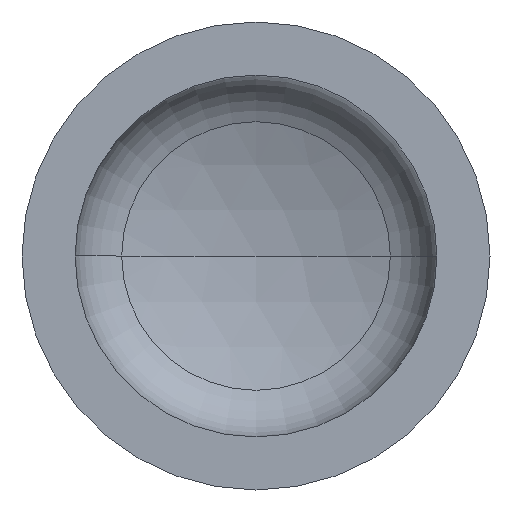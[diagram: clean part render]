
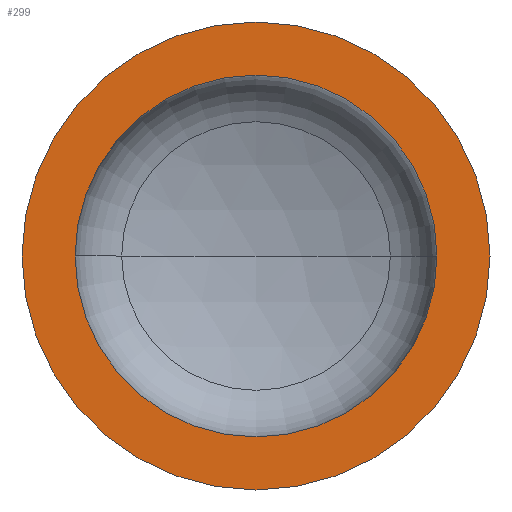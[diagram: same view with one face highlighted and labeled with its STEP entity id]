
A CAD part, front view. The second image highlights one B-rep face of the part: STEP entity #299.
In plain terms, the highlighted planar face has unit normal (0, -1, 0).
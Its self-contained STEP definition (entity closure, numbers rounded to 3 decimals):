
#8 = ORIENTED_EDGE ( 'NONE', *, *, #113, .T. ) ;
#19 = AXIS2_PLACEMENT_3D ( 'NONE', #399, #264, #47 ) ;
#20 = AXIS2_PLACEMENT_3D ( 'NONE', #389, #180, #207 ) ;
#21 = EDGE_LOOP ( 'NONE', ( #57, #8 ) ) ;
#45 = EDGE_LOOP ( 'NONE', ( #128, #114 ) ) ;
#47 = DIRECTION ( 'NONE',  ( 1., 0., 0. ) ) ;
#49 = VERTEX_POINT ( 'NONE', #274 ) ;
#57 = ORIENTED_EDGE ( 'NONE', *, *, #230, .T. ) ;
#61 = AXIS2_PLACEMENT_3D ( 'NONE', #265, #263, #260 ) ;
#89 = AXIS2_PLACEMENT_3D ( 'NONE', #337, #336, #335 ) ;
#91 = AXIS2_PLACEMENT_3D ( 'NONE', #383, #384, #332 ) ;
#106 = VERTEX_POINT ( 'NONE', #347 ) ;
#113 = EDGE_CURVE ( 'NONE', #49, #106, #146, .T. ) ;
#114 = ORIENTED_EDGE ( 'NONE', *, *, #360, .F. ) ;
#118 = EDGE_CURVE ( 'NONE', #132, #123, #394, .T. ) ;
#123 = VERTEX_POINT ( 'NONE', #358 ) ;
#128 = ORIENTED_EDGE ( 'NONE', *, *, #118, .F. ) ;
#132 = VERTEX_POINT ( 'NONE', #322 ) ;
#146 = CIRCLE ( 'NONE', #91, 450. ) ;
#180 = DIRECTION ( 'NONE',  ( 0., 1., 0. ) ) ;
#207 = DIRECTION ( 'NONE',  ( -1., 0., 0. ) ) ;
#230 = EDGE_CURVE ( 'NONE', #106, #49, #328, .T. ) ;
#234 = CIRCLE ( 'NONE', #19, 348. ) ;
#244 = FACE_OUTER_BOUND ( 'NONE', #21, .T. ) ;
#260 = DIRECTION ( 'NONE',  ( 1., 0., 0. ) ) ;
#263 = DIRECTION ( 'NONE',  ( 0., -1., 0. ) ) ;
#264 = DIRECTION ( 'NONE',  ( 0., -1., 0. ) ) ;
#265 = CARTESIAN_POINT ( 'NONE',  ( 0., 0., 0. ) ) ;
#274 = CARTESIAN_POINT ( 'NONE',  ( -450., 0., 0. ) ) ;
#285 = PLANE ( 'NONE',  #20 ) ;
#299 = ADVANCED_FACE ( 'NONE', ( #368, #244 ), #285, .F. ) ;
#322 = CARTESIAN_POINT ( 'NONE',  ( 348., 0., 0. ) ) ;
#328 = CIRCLE ( 'NONE', #61, 450. ) ;
#332 = DIRECTION ( 'NONE',  ( 1., 0., 0. ) ) ;
#335 = DIRECTION ( 'NONE',  ( 1., 0., 0. ) ) ;
#336 = DIRECTION ( 'NONE',  ( 0., -1., 0. ) ) ;
#337 = CARTESIAN_POINT ( 'NONE',  ( 0., 0., 0. ) ) ;
#347 = CARTESIAN_POINT ( 'NONE',  ( 450., 0., 0. ) ) ;
#358 = CARTESIAN_POINT ( 'NONE',  ( -348., 0., 0. ) ) ;
#360 = EDGE_CURVE ( 'NONE', #123, #132, #234, .T. ) ;
#368 = FACE_BOUND ( 'NONE', #45, .T. ) ;
#383 = CARTESIAN_POINT ( 'NONE',  ( 0., 0., 0. ) ) ;
#384 = DIRECTION ( 'NONE',  ( 0., -1., 0. ) ) ;
#389 = CARTESIAN_POINT ( 'NONE',  ( -450., 0., 0. ) ) ;
#394 = CIRCLE ( 'NONE', #89, 348. ) ;
#399 = CARTESIAN_POINT ( 'NONE',  ( 0., 0., 0. ) ) ;
